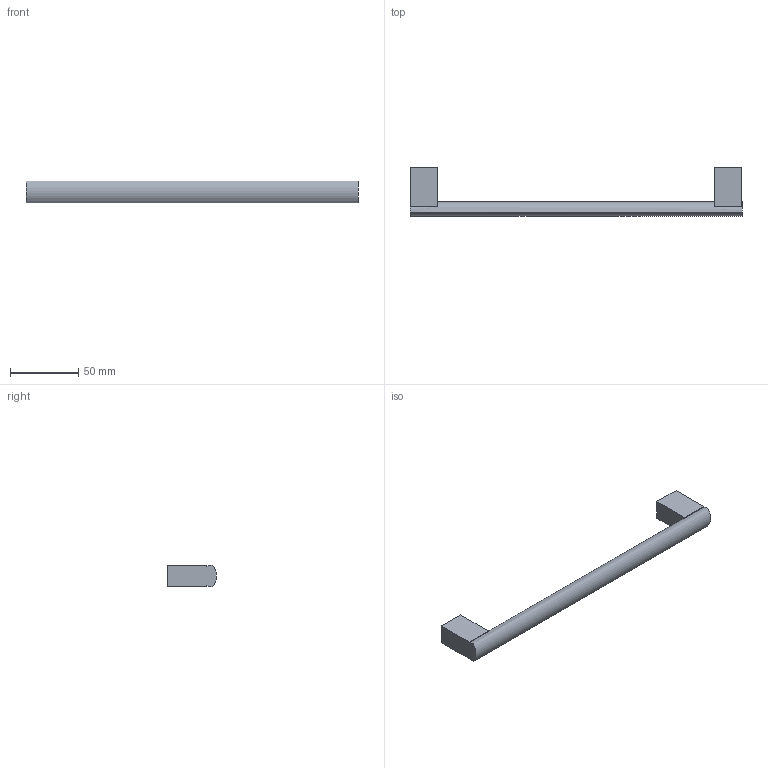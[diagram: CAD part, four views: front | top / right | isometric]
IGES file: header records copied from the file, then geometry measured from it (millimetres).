
Start section: Data from Parasolid IGES Translator 20.0.26, Copyright(c) 2006 Siemens P LM Software. All Rights Reserved.
Global section: file name: 115356.igs; native system: By Siemens PLM Incorporated; preprocessor: XPlus GENERIC/IGES 20.0.26; author: Noname; organization: Noname; date: 20230220.161053; units: millimetre
Bounding box: 244 x 35.96 x 16 mm (x, y, z)
Surface area: 14738.9 mm2 (no closed solid volume)
Topology: 0 solids, 0 shells, 22 faces, 102 edges, 100 vertices
Faces by surface type: extrusion 17, revolution 5
